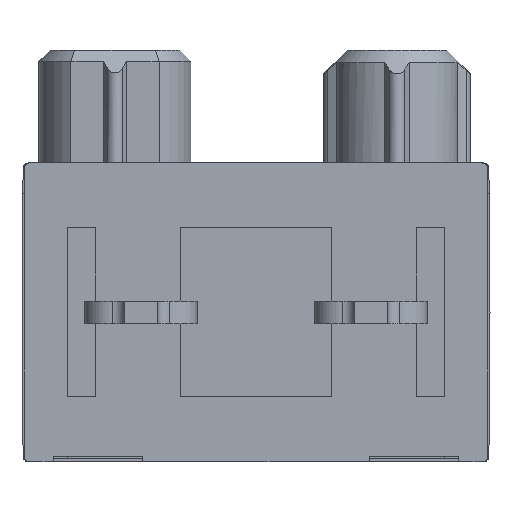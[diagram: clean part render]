
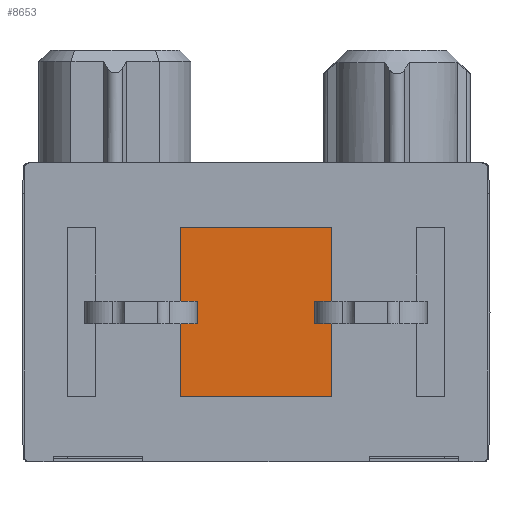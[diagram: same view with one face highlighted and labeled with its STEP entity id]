
A CAD part, front view. The second image highlights one B-rep face of the part: STEP entity #8653.
In plain terms, the highlighted planar face has unit normal (0, -1, 0).
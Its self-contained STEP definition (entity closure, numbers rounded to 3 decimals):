
#261 = LINE ( 'NONE', #657, #9544 ) ;
#657 = CARTESIAN_POINT ( 'NONE',  ( -2.839, 0., 1.5 ) ) ;
#701 = DIRECTION ( 'NONE',  ( -1., 0., 0. ) ) ;
#796 = LINE ( 'NONE', #1037, #7916 ) ;
#836 = DIRECTION ( 'NONE',  ( 0., 0., 1. ) ) ;
#1037 = CARTESIAN_POINT ( 'NONE',  ( 1.341, 0., -2.65 ) ) ;
#1553 = LINE ( 'NONE', #6363, #6454 ) ;
#1656 = DIRECTION ( 'NONE',  ( 1., 0., 0. ) ) ;
#1709 = CARTESIAN_POINT ( 'NONE',  ( -2.839, 0., -1.5 ) ) ;
#2060 = EDGE_LOOP ( 'NONE', ( #5443, #10285, #10999, #8513 ) ) ;
#3164 = CARTESIAN_POINT ( 'NONE',  ( 1.341, 0., -1.5 ) ) ;
#3300 = CARTESIAN_POINT ( 'NONE',  ( -1.339, 0., -1.5 ) ) ;
#3319 = AXIS2_PLACEMENT_3D ( 'NONE', #9479, #10186, #9811 ) ;
#5106 = VERTEX_POINT ( 'NONE', #9200 ) ;
#5443 = ORIENTED_EDGE ( 'NONE', *, *, #9737, .T. ) ;
#5888 = FACE_OUTER_BOUND ( 'NONE', #2060, .T. ) ;
#6359 = DIRECTION ( 'NONE',  ( 0., 0., -1. ) ) ;
#6363 = CARTESIAN_POINT ( 'NONE',  ( -1.339, 0., -2.65 ) ) ;
#6454 = VECTOR ( 'NONE', #6359, 1000. ) ;
#6811 = VERTEX_POINT ( 'NONE', #11441 ) ;
#7668 = VECTOR ( 'NONE', #1656, 1000. ) ;
#7916 = VECTOR ( 'NONE', #836, 1000. ) ;
#8513 = ORIENTED_EDGE ( 'NONE', *, *, #11691, .T. ) ;
#8653 = ADVANCED_FACE ( 'NONE', ( #5888 ), #10802, .T. ) ;
#9200 = CARTESIAN_POINT ( 'NONE',  ( -1.339, 0., 1.5 ) ) ;
#9479 = CARTESIAN_POINT ( 'NONE',  ( -2.839, 0., -3.098 ) ) ;
#9544 = VECTOR ( 'NONE', #701, 1000. ) ;
#9737 = EDGE_CURVE ( 'NONE', #11472, #6811, #796, .T. ) ;
#9811 = DIRECTION ( 'NONE',  ( 0., 0., -1. ) ) ;
#10093 = LINE ( 'NONE', #1709, #7668 ) ;
#10186 = DIRECTION ( 'NONE',  ( 0., -1., 0. ) ) ;
#10236 = EDGE_CURVE ( 'NONE', #5106, #10599, #1553, .T. ) ;
#10285 = ORIENTED_EDGE ( 'NONE', *, *, #11820, .T. ) ;
#10599 = VERTEX_POINT ( 'NONE', #3300 ) ;
#10802 = PLANE ( 'NONE',  #3319 ) ;
#10999 = ORIENTED_EDGE ( 'NONE', *, *, #10236, .T. ) ;
#11441 = CARTESIAN_POINT ( 'NONE',  ( 1.341, 0., 1.5 ) ) ;
#11472 = VERTEX_POINT ( 'NONE', #3164 ) ;
#11691 = EDGE_CURVE ( 'NONE', #10599, #11472, #10093, .T. ) ;
#11820 = EDGE_CURVE ( 'NONE', #6811, #5106, #261, .T. ) ;
